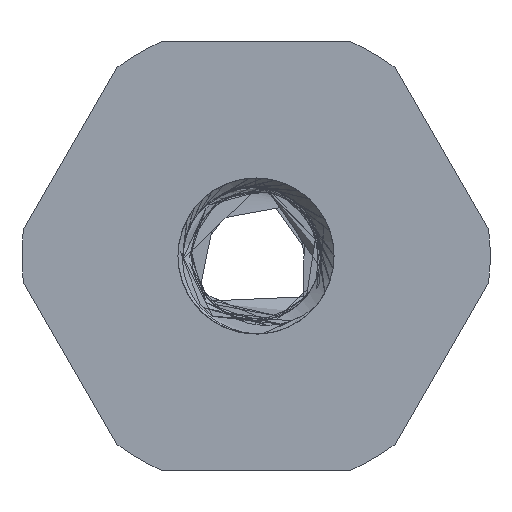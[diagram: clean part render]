
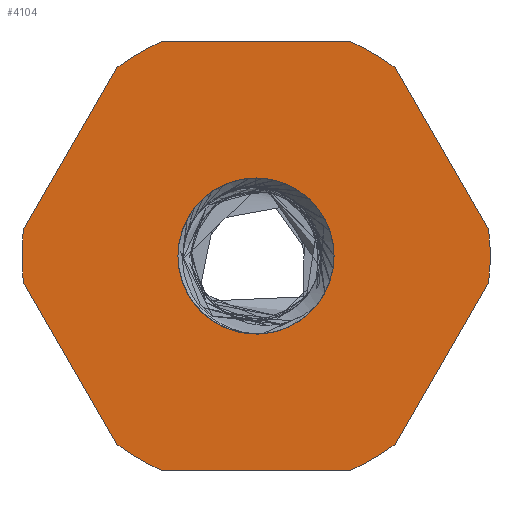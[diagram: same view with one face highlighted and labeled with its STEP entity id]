
A CAD part, front view. The second image highlights one B-rep face of the part: STEP entity #4104.
In plain terms, the highlighted planar face has unit normal (0, -1, 0).
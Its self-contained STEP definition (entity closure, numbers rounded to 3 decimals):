
#109 = CARTESIAN_POINT ( 'NONE',  ( 0., 0., 0. ) ) ;
#114 = ORIENTED_EDGE ( 'NONE', *, *, #4678, .F. ) ;
#180 = AXIS2_PLACEMENT_3D ( 'NONE', #3367, #2535, #7317 ) ;
#423 = LINE ( 'NONE', #1027, #1449 ) ;
#482 = DIRECTION ( 'NONE',  ( 0., 1., 0. ) ) ;
#490 = CARTESIAN_POINT ( 'NONE',  ( -2.398, 0., 5.5 ) ) ;
#534 = EDGE_CURVE ( 'NONE', #1403, #9390, #5224, .T. ) ;
#591 = CIRCLE ( 'NONE', #3080, 6. ) ;
#669 = LINE ( 'NONE', #1551, #11035 ) ;
#679 = CARTESIAN_POINT ( 'NONE',  ( 0., 0., 0. ) ) ;
#741 = CIRCLE ( 'NONE', #180, 6. ) ;
#1009 = AXIS2_PLACEMENT_3D ( 'NONE', #679, #10023, #7197 ) ;
#1027 = CARTESIAN_POINT ( 'NONE',  ( 0., 0., -5.5 ) ) ;
#1062 = DIRECTION ( 'NONE',  ( 0., 0., 1. ) ) ;
#1267 = EDGE_CURVE ( 'NONE', #2994, #1271, #669, .T. ) ;
#1271 = VERTEX_POINT ( 'NONE', #10927 ) ;
#1403 = VERTEX_POINT ( 'NONE', #4411 ) ;
#1449 = VECTOR ( 'NONE', #3812, 1000. ) ;
#1551 = CARTESIAN_POINT ( 'NONE',  ( -4.763, 0., -2.75 ) ) ;
#1841 = DIRECTION ( 'NONE',  ( 0., 0., 1. ) ) ;
#1927 = EDGE_CURVE ( 'NONE', #11669, #7944, #4743, .T. ) ;
#2253 = ORIENTED_EDGE ( 'NONE', *, *, #1267, .F. ) ;
#2272 = CARTESIAN_POINT ( 'NONE',  ( 0., 0., 0. ) ) ;
#2343 = ORIENTED_EDGE ( 'NONE', *, *, #10670, .F. ) ;
#2463 = ORIENTED_EDGE ( 'NONE', *, *, #6062, .F. ) ;
#2522 = CARTESIAN_POINT ( 'NONE',  ( 0., 0., 0. ) ) ;
#2535 = DIRECTION ( 'NONE',  ( 0., 1., 0. ) ) ;
#2587 = EDGE_CURVE ( 'NONE', #7944, #3729, #741, .T. ) ;
#2596 = CARTESIAN_POINT ( 'NONE',  ( 5.962, 0., 0.673 ) ) ;
#2598 = CARTESIAN_POINT ( 'NONE',  ( -4.763, 0., 2.75 ) ) ;
#2747 = ORIENTED_EDGE ( 'NONE', *, *, #5061, .F. ) ;
#2765 = DIRECTION ( 'NONE',  ( 0., 0., 1. ) ) ;
#2799 = DIRECTION ( 'NONE',  ( 0., 1., 0. ) ) ;
#2902 = CARTESIAN_POINT ( 'NONE',  ( -5.962, 0., 0.673 ) ) ;
#2994 = VERTEX_POINT ( 'NONE', #9778 ) ;
#3031 = LINE ( 'NONE', #3535, #9583 ) ;
#3080 = AXIS2_PLACEMENT_3D ( 'NONE', #2272, #7041, #4281 ) ;
#3093 = EDGE_CURVE ( 'NONE', #6586, #2994, #591, .T. ) ;
#3252 = CARTESIAN_POINT ( 'NONE',  ( 2.398, 0., -5.5 ) ) ;
#3363 = CARTESIAN_POINT ( 'NONE',  ( 5.962, 0., -0.673 ) ) ;
#3367 = CARTESIAN_POINT ( 'NONE',  ( 0., 0., 0. ) ) ;
#3463 = VERTEX_POINT ( 'NONE', #2902 ) ;
#3469 = ORIENTED_EDGE ( 'NONE', *, *, #2587, .F. ) ;
#3535 = CARTESIAN_POINT ( 'NONE',  ( 4.763, 0., -2.75 ) ) ;
#3680 = AXIS2_PLACEMENT_3D ( 'NONE', #9794, #11515, #11553 ) ;
#3729 = VERTEX_POINT ( 'NONE', #3363 ) ;
#3812 = DIRECTION ( 'NONE',  ( -1., 0., 0. ) ) ;
#3889 = DIRECTION ( 'NONE',  ( 0., 1., 0. ) ) ;
#3893 = DIRECTION ( 'NONE',  ( 0., 1., 0. ) ) ;
#3937 = VECTOR ( 'NONE', #10807, 1000. ) ;
#3972 = ORIENTED_EDGE ( 'NONE', *, *, #1927, .F. ) ;
#4104 = ADVANCED_FACE ( 'NONE', ( #5419, #11241 ), #10287, .F. ) ;
#4198 = EDGE_CURVE ( 'NONE', #11709, #1403, #5852, .T. ) ;
#4281 = DIRECTION ( 'NONE',  ( 0., 0., 1. ) ) ;
#4349 = CARTESIAN_POINT ( 'NONE',  ( 0.239, 0., -1.986 ) ) ;
#4364 = VERTEX_POINT ( 'NONE', #3252 ) ;
#4411 = CARTESIAN_POINT ( 'NONE',  ( 0., 0., 2. ) ) ;
#4558 = EDGE_CURVE ( 'NONE', #6567, #4364, #10477, .T. ) ;
#4656 = DIRECTION ( 'NONE',  ( 0., 1., 0. ) ) ;
#4678 = EDGE_CURVE ( 'NONE', #3463, #11647, #6754, .T. ) ;
#4743 = LINE ( 'NONE', #9106, #7002 ) ;
#4778 = VERTEX_POINT ( 'NONE', #10481 ) ;
#4805 = CARTESIAN_POINT ( 'NONE',  ( -3.564, 0., 4.827 ) ) ;
#4813 = ORIENTED_EDGE ( 'NONE', *, *, #4558, .F. ) ;
#5034 = EDGE_LOOP ( 'NONE', ( #2343, #5815, #114, #2463, #2253, #5768, #6141, #4813, #11463, #3469, #3972, #2747 ) ) ;
#5061 = EDGE_CURVE ( 'NONE', #4778, #11669, #9568, .T. ) ;
#5085 = CARTESIAN_POINT ( 'NONE',  ( 3.564, 0., -4.827 ) ) ;
#5224 = CIRCLE ( 'NONE', #9649, 2. ) ;
#5259 = CARTESIAN_POINT ( 'NONE',  ( 0., 0., -2. ) ) ;
#5419 = FACE_BOUND ( 'NONE', #10616, .T. ) ;
#5423 = LINE ( 'NONE', #7966, #3937 ) ;
#5440 = EDGE_CURVE ( 'NONE', #12109, #11709, #9720, .T. ) ;
#5561 = ORIENTED_EDGE ( 'NONE', *, *, #7212, .T. ) ;
#5581 = CIRCLE ( 'NONE', #9350, 6. ) ;
#5720 = VECTOR ( 'NONE', #11258, 1000. ) ;
#5768 = ORIENTED_EDGE ( 'NONE', *, *, #3093, .F. ) ;
#5815 = ORIENTED_EDGE ( 'NONE', *, *, #9742, .F. ) ;
#5852 = CIRCLE ( 'NONE', #6998, 2. ) ;
#5896 = AXIS2_PLACEMENT_3D ( 'NONE', #10496, #10532, #1062 ) ;
#6062 = EDGE_CURVE ( 'NONE', #1271, #3463, #11651, .T. ) ;
#6120 = DIRECTION ( 'NONE',  ( -0.5, 0., 0.866 ) ) ;
#6141 = ORIENTED_EDGE ( 'NONE', *, *, #11097, .F. ) ;
#6464 = DIRECTION ( 'NONE',  ( -0.5, 0., -0.866 ) ) ;
#6567 = VERTEX_POINT ( 'NONE', #5085 ) ;
#6586 = VERTEX_POINT ( 'NONE', #9711 ) ;
#6754 = LINE ( 'NONE', #2598, #5720 ) ;
#6998 = AXIS2_PLACEMENT_3D ( 'NONE', #109, #3889, #11538 ) ;
#7002 = VECTOR ( 'NONE', #8995, 1000. ) ;
#7041 = DIRECTION ( 'NONE',  ( 0., 1., 0. ) ) ;
#7197 = DIRECTION ( 'NONE',  ( 0., 0., 1. ) ) ;
#7212 = EDGE_CURVE ( 'NONE', #9390, #12109, #9544, .T. ) ;
#7216 = DIRECTION ( 'NONE',  ( 0., 0., 1. ) ) ;
#7317 = DIRECTION ( 'NONE',  ( 0., 0., 1. ) ) ;
#7548 = CARTESIAN_POINT ( 'NONE',  ( 0., 0., 0. ) ) ;
#7944 = VERTEX_POINT ( 'NONE', #2596 ) ;
#7966 = CARTESIAN_POINT ( 'NONE',  ( 0., 0., 5.5 ) ) ;
#8223 = VERTEX_POINT ( 'NONE', #490 ) ;
#8597 = DIRECTION ( 'NONE',  ( 0., 0., 1. ) ) ;
#8918 = AXIS2_PLACEMENT_3D ( 'NONE', #12257, #4656, #1841 ) ;
#8995 = DIRECTION ( 'NONE',  ( 0.5, 0., -0.866 ) ) ;
#9052 = CARTESIAN_POINT ( 'NONE',  ( 3.564, 0., 4.827 ) ) ;
#9106 = CARTESIAN_POINT ( 'NONE',  ( 4.763, 0., 2.75 ) ) ;
#9350 = AXIS2_PLACEMENT_3D ( 'NONE', #7548, #2799, #2765 ) ;
#9362 = DIRECTION ( 'NONE',  ( 0., 1., 0. ) ) ;
#9387 = AXIS2_PLACEMENT_3D ( 'NONE', #10963, #482, #7216 ) ;
#9390 = VERTEX_POINT ( 'NONE', #9782 ) ;
#9544 = CIRCLE ( 'NONE', #5896, 2. ) ;
#9566 = ORIENTED_EDGE ( 'NONE', *, *, #5440, .T. ) ;
#9568 = CIRCLE ( 'NONE', #1009, 6. ) ;
#9581 = CARTESIAN_POINT ( 'NONE',  ( 0., 0., 0. ) ) ;
#9583 = VECTOR ( 'NONE', #6464, 1000. ) ;
#9649 = AXIS2_PLACEMENT_3D ( 'NONE', #2522, #9362, #10436 ) ;
#9711 = CARTESIAN_POINT ( 'NONE',  ( -2.398, 0., -5.5 ) ) ;
#9720 = CIRCLE ( 'NONE', #3680, 2. ) ;
#9742 = EDGE_CURVE ( 'NONE', #11647, #8223, #5581, .T. ) ;
#9778 = CARTESIAN_POINT ( 'NONE',  ( -3.564, 0., -4.827 ) ) ;
#9782 = CARTESIAN_POINT ( 'NONE',  ( 1.553, 0., -1.261 ) ) ;
#9794 = CARTESIAN_POINT ( 'NONE',  ( 0., 0., 0. ) ) ;
#9954 = ORIENTED_EDGE ( 'NONE', *, *, #4198, .T. ) ;
#10023 = DIRECTION ( 'NONE',  ( 0., 1., 0. ) ) ;
#10287 = PLANE ( 'NONE',  #8918 ) ;
#10436 = DIRECTION ( 'NONE',  ( 0., 0., 1. ) ) ;
#10477 = CIRCLE ( 'NONE', #9387, 6. ) ;
#10481 = CARTESIAN_POINT ( 'NONE',  ( 2.398, 0., 5.5 ) ) ;
#10496 = CARTESIAN_POINT ( 'NONE',  ( 0., 0., 0. ) ) ;
#10532 = DIRECTION ( 'NONE',  ( 0., 1., 0. ) ) ;
#10616 = EDGE_LOOP ( 'NONE', ( #5561, #9566, #9954, #11088 ) ) ;
#10670 = EDGE_CURVE ( 'NONE', #8223, #4778, #5423, .T. ) ;
#10807 = DIRECTION ( 'NONE',  ( 1., 0., 0. ) ) ;
#10927 = CARTESIAN_POINT ( 'NONE',  ( -5.962, 0., -0.673 ) ) ;
#10955 = EDGE_CURVE ( 'NONE', #3729, #6567, #3031, .T. ) ;
#10963 = CARTESIAN_POINT ( 'NONE',  ( 0., 0., 0. ) ) ;
#11035 = VECTOR ( 'NONE', #6120, 1000. ) ;
#11088 = ORIENTED_EDGE ( 'NONE', *, *, #534, .T. ) ;
#11097 = EDGE_CURVE ( 'NONE', #4364, #6586, #423, .T. ) ;
#11241 = FACE_OUTER_BOUND ( 'NONE', #5034, .T. ) ;
#11258 = DIRECTION ( 'NONE',  ( 0.5, 0., 0.866 ) ) ;
#11463 = ORIENTED_EDGE ( 'NONE', *, *, #10955, .F. ) ;
#11515 = DIRECTION ( 'NONE',  ( 0., 1., 0. ) ) ;
#11538 = DIRECTION ( 'NONE',  ( 0., 0., 1. ) ) ;
#11553 = DIRECTION ( 'NONE',  ( 0., 0., 1. ) ) ;
#11647 = VERTEX_POINT ( 'NONE', #4805 ) ;
#11651 = CIRCLE ( 'NONE', #12201, 6. ) ;
#11669 = VERTEX_POINT ( 'NONE', #9052 ) ;
#11709 = VERTEX_POINT ( 'NONE', #5259 ) ;
#12109 = VERTEX_POINT ( 'NONE', #4349 ) ;
#12201 = AXIS2_PLACEMENT_3D ( 'NONE', #9581, #3893, #8597 ) ;
#12257 = CARTESIAN_POINT ( 'NONE',  ( 0., 0., 0. ) ) ;
